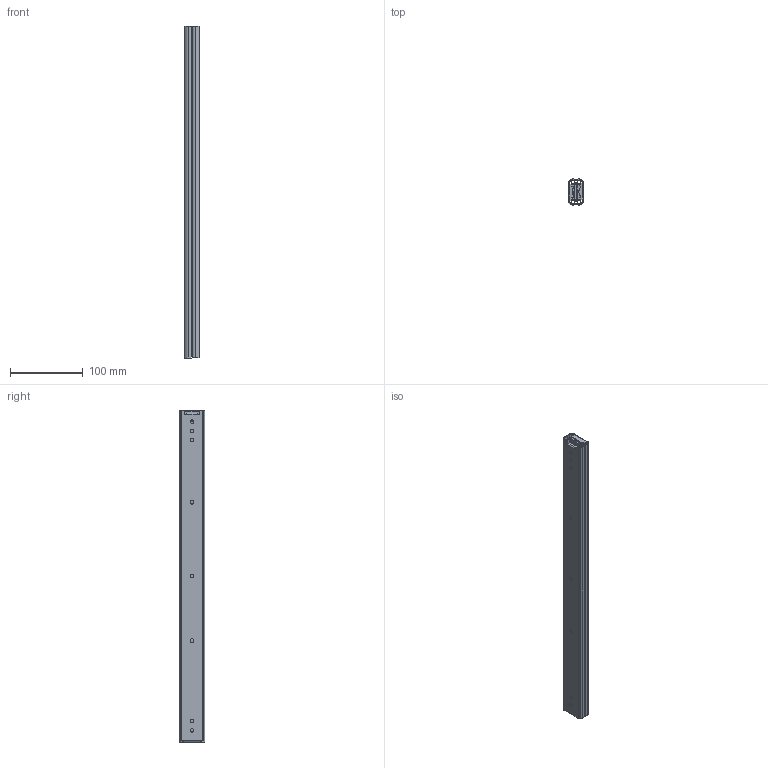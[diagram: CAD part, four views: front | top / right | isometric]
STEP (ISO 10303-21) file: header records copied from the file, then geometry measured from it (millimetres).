
FILE_DESCRIPTION (( 'STEP AP214' ), '1' );
FILE_NAME ('3560-450-closed.STEP', '2024-08-20T05:54:24', ( '' ), ( '' ), 'SwSTEP 2.0', 'SolidWorks 2024', '' );
FILE_SCHEMA (( 'AUTOMOTIVE_DESIGN' ));
Length unit declared in the file: millimetre
Products named in the file (4): 26065P3-18''''.stp_Part14; CAD_3560-450_TelescopicRailLight_Rollco.stp_Assem7; 3560-450-closed; 26065P1-18''''.stp_Part13
Assembly tree (5 placements, depth 3):
  3560-450-closed
    CAD_3560-450_TelescopicRailLight_Rollco.stp_Assem7
      26065P1-18''''.stp_Part13  x2
      26065P3-18''''.stp_Part14  x2
Bounding box: 19.6 x 35.28 x 457.2 mm (x, y, z)
Surface area: 150290.7 mm2 (no closed solid volume)
Topology: 0 solids, 4 shells, 306 faces, 882 edges, 584 vertices
Faces by surface type: cylinder 162, plane 144
Entity records: 6501 total; most frequent: CARTESIAN_POINT 3189, ORIENTED_EDGE 882, EDGE_CURVE 441, B_SPLINE_CURVE_WITH_KNOTS 428, DIRECTION 337, VERTEX_POINT 292, EDGE_LOOP 177, AXIS2_PLACEMENT_3D 162
